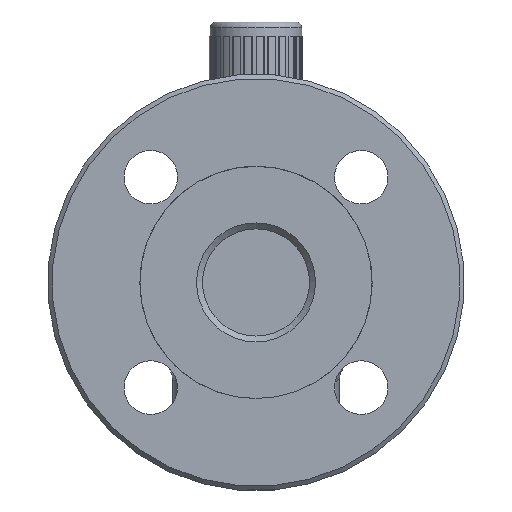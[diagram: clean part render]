
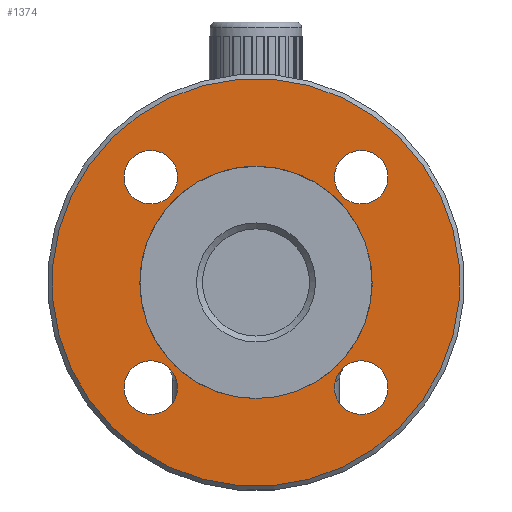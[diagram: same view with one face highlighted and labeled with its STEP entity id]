
A CAD part, left-side view. The second image highlights one B-rep face of the part: STEP entity #1374.
In plain terms, the highlighted planar face has unit normal (-1, 0, 0).
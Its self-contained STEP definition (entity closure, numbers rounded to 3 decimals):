
#698=PLANE('',#4608);
#885=CIRCLE('',#4602,68.5);
#886=CIRCLE('',#4603,39.);
#887=CIRCLE('',#4604,9.);
#888=CIRCLE('',#4605,9.);
#889=CIRCLE('',#4606,9.);
#890=CIRCLE('',#4607,9.);
#1374=ADVANCED_FACE('',(#1650,#1651,#1652,#1653,#1654,#1655),#698,.T.);
#1650=FACE_BOUND('',#1926,.T.);
#1651=FACE_BOUND('',#1927,.T.);
#1652=FACE_BOUND('',#1928,.T.);
#1653=FACE_BOUND('',#1929,.T.);
#1654=FACE_BOUND('',#1930,.T.);
#1655=FACE_BOUND('',#1931,.T.);
#1926=EDGE_LOOP('',(#2536));
#1927=EDGE_LOOP('',(#2537));
#1928=EDGE_LOOP('',(#2538));
#1929=EDGE_LOOP('',(#2539));
#1930=EDGE_LOOP('',(#2540));
#1931=EDGE_LOOP('',(#2541));
#2536=ORIENTED_EDGE('',*,*,#3954,.T.);
#2537=ORIENTED_EDGE('',*,*,#3955,.F.);
#2538=ORIENTED_EDGE('',*,*,#3956,.T.);
#2539=ORIENTED_EDGE('',*,*,#3957,.T.);
#2540=ORIENTED_EDGE('',*,*,#3958,.T.);
#2541=ORIENTED_EDGE('',*,*,#3959,.T.);
#3500=VERTEX_POINT('',#12589);
#3501=VERTEX_POINT('',#12591);
#3502=VERTEX_POINT('',#12593);
#3503=VERTEX_POINT('',#12595);
#3504=VERTEX_POINT('',#12597);
#3505=VERTEX_POINT('',#12599);
#3954=EDGE_CURVE('',#3500,#3500,#885,.T.);
#3955=EDGE_CURVE('',#3501,#3501,#886,.T.);
#3956=EDGE_CURVE('',#3502,#3502,#887,.T.);
#3957=EDGE_CURVE('',#3503,#3503,#888,.T.);
#3958=EDGE_CURVE('',#3504,#3504,#889,.T.);
#3959=EDGE_CURVE('',#3505,#3505,#890,.T.);
#4602=AXIS2_PLACEMENT_3D('',#12588,#5262,#5263);
#4603=AXIS2_PLACEMENT_3D('',#12590,#5264,#5265);
#4604=AXIS2_PLACEMENT_3D('',#12592,#5266,#5267);
#4605=AXIS2_PLACEMENT_3D('',#12594,#5268,#5269);
#4606=AXIS2_PLACEMENT_3D('',#12596,#5270,#5271);
#4607=AXIS2_PLACEMENT_3D('',#12598,#5272,#5273);
#4608=AXIS2_PLACEMENT_3D('',#12600,#5274,#5275);
#5262=DIRECTION('',(-1.,0.,0.));
#5263=DIRECTION('',(0.,0.707,0.707));
#5264=DIRECTION('',(-1.,0.,0.));
#5265=DIRECTION('',(0.,0.707,0.707));
#5266=DIRECTION('',(1.,0.,0.));
#5267=DIRECTION('',(0.,-0.707,0.707));
#5268=DIRECTION('',(1.,0.,0.));
#5269=DIRECTION('',(0.,0.707,0.707));
#5270=DIRECTION('',(1.,0.,0.));
#5271=DIRECTION('',(0.,0.707,-0.707));
#5272=DIRECTION('',(1.,0.,0.));
#5273=DIRECTION('',(0.,-0.707,-0.707));
#5274=DIRECTION('',(-1.,0.,0.));
#5275=DIRECTION('',(0.,0.707,0.707));
#12588=CARTESIAN_POINT('',(12.,0.,100.));
#12589=CARTESIAN_POINT('',(12.,48.437,148.437));
#12590=CARTESIAN_POINT('',(12.,0.,100.));
#12591=CARTESIAN_POINT('',(12.,27.577,127.577));
#12592=CARTESIAN_POINT('',(12.,35.355,135.355));
#12593=CARTESIAN_POINT('',(12.,28.991,141.719));
#12594=CARTESIAN_POINT('',(12.,35.355,64.645));
#12595=CARTESIAN_POINT('',(12.,41.719,71.009));
#12596=CARTESIAN_POINT('',(12.,-35.355,64.645));
#12597=CARTESIAN_POINT('',(12.,-28.991,58.281));
#12598=CARTESIAN_POINT('',(12.,-35.355,135.355));
#12599=CARTESIAN_POINT('',(12.,-41.719,128.991));
#12600=CARTESIAN_POINT('',(12.,0.,100.));
